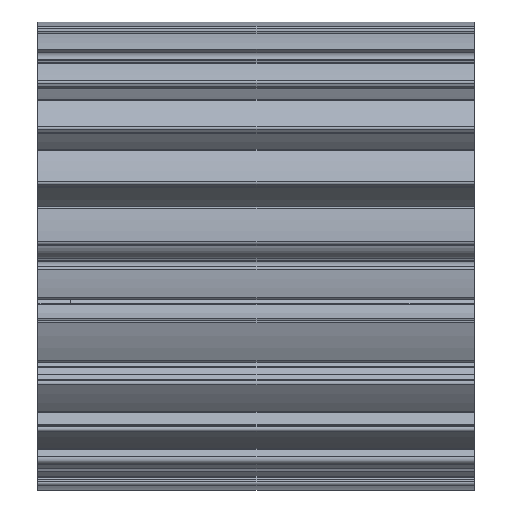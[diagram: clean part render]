
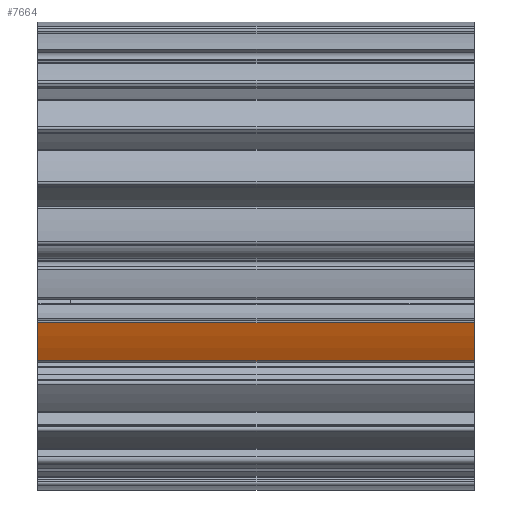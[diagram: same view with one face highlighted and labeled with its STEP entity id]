
A CAD part, left-side view. The second image highlights one B-rep face of the part: STEP entity #7664.
In plain terms, the highlighted cylindrical face has radius 43 mm (diameter 86 mm), a partial arc.
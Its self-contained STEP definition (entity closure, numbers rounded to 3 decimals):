
#205 = LINE ( 'NONE', #11604, #14207 ) ;
#668 = CARTESIAN_POINT ( 'NONE',  ( -41.215, -2.95, -12.261 ) ) ;
#1036 = CARTESIAN_POINT ( 'NONE',  ( -41.215, -5.828, -12.261 ) ) ;
#1139 = VERTEX_POINT ( 'NONE', #14316 ) ;
#1247 = ORIENTED_EDGE ( 'NONE', *, *, #5260, .F. ) ;
#2049 = DIRECTION ( 'NONE',  ( 0., 1., 0. ) ) ;
#2113 = AXIS2_PLACEMENT_3D ( 'NONE', #15881, #7786, #17243 ) ;
#2231 = EDGE_LOOP ( 'NONE', ( #15283, #12741, #1247, #17064 ) ) ;
#3625 = DIRECTION ( 'NONE',  ( 0., 0., 1. ) ) ;
#4873 = CYLINDRICAL_SURFACE ( 'NONE', #6012, 43. ) ;
#5006 = DIRECTION ( 'NONE',  ( 0., 1., 0. ) ) ;
#5147 = CIRCLE ( 'NONE', #2113, 43. ) ;
#5260 = EDGE_CURVE ( 'NONE', #1139, #13144, #5147, .T. ) ;
#5691 = EDGE_CURVE ( 'NONE', #10773, #13144, #5787, .T. ) ;
#5787 = LINE ( 'NONE', #668, #12555 ) ;
#6012 = AXIS2_PLACEMENT_3D ( 'NONE', #7685, #5006, #3625 ) ;
#6123 = EDGE_CURVE ( 'NONE', #15329, #10773, #13820, .T. ) ;
#6848 = DIRECTION ( 'NONE',  ( 0., 1., 0. ) ) ;
#7030 = EDGE_CURVE ( 'NONE', #1139, #15329, #205, .T. ) ;
#7664 = ADVANCED_FACE ( 'NONE', ( #12078 ), #4873, .T. ) ;
#7685 = CARTESIAN_POINT ( 'NONE',  ( 0., -4.487, 0. ) ) ;
#7786 = DIRECTION ( 'NONE',  ( 0., 1., 0. ) ) ;
#10773 = VERTEX_POINT ( 'NONE', #1036 ) ;
#11604 = CARTESIAN_POINT ( 'NONE',  ( -38.466, -4.487, -19.218 ) ) ;
#11665 = DIRECTION ( 'NONE',  ( 0., -1., 0. ) ) ;
#12078 = FACE_OUTER_BOUND ( 'NONE', #2231, .T. ) ;
#12555 = VECTOR ( 'NONE', #2049, 1000. ) ;
#12741 = ORIENTED_EDGE ( 'NONE', *, *, #5691, .T. ) ;
#13144 = VERTEX_POINT ( 'NONE', #14326 ) ;
#13820 = CIRCLE ( 'NONE', #16539, 43. ) ;
#14207 = VECTOR ( 'NONE', #11665, 1000. ) ;
#14316 = CARTESIAN_POINT ( 'NONE',  ( -38.466, 74.172, -19.218 ) ) ;
#14326 = CARTESIAN_POINT ( 'NONE',  ( -41.215, 74.172, -12.261 ) ) ;
#14961 = CARTESIAN_POINT ( 'NONE',  ( 0., -5.828, 0. ) ) ;
#14970 = CARTESIAN_POINT ( 'NONE',  ( -38.466, -5.828, -19.218 ) ) ;
#15283 = ORIENTED_EDGE ( 'NONE', *, *, #6123, .T. ) ;
#15329 = VERTEX_POINT ( 'NONE', #14970 ) ;
#15881 = CARTESIAN_POINT ( 'NONE',  ( 0., 74.172, 0. ) ) ;
#16311 = DIRECTION ( 'NONE',  ( 0., 0., -1. ) ) ;
#16539 = AXIS2_PLACEMENT_3D ( 'NONE', #14961, #6848, #16311 ) ;
#17064 = ORIENTED_EDGE ( 'NONE', *, *, #7030, .T. ) ;
#17243 = DIRECTION ( 'NONE',  ( 0., 0., 1. ) ) ;
